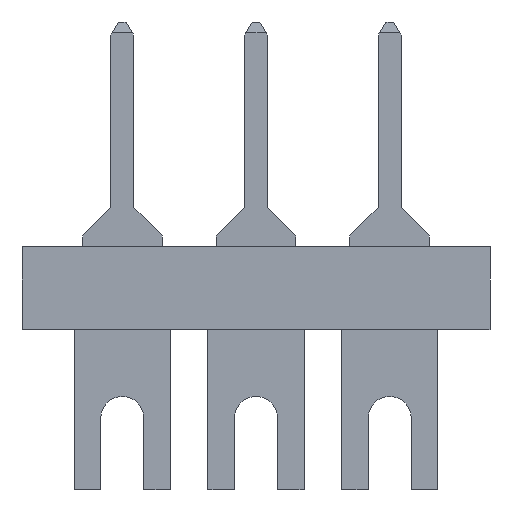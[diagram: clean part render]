
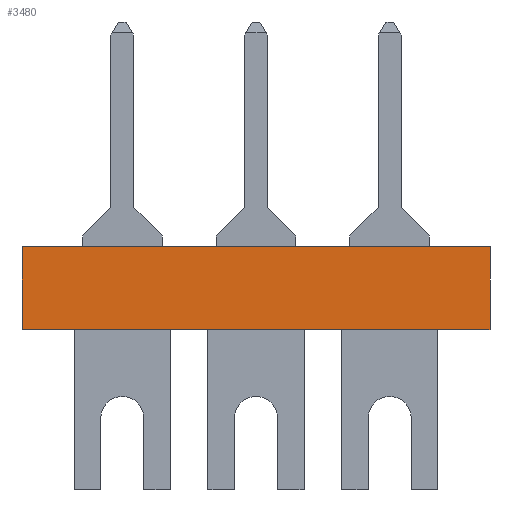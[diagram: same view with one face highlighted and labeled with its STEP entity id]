
A CAD part, front view. The second image highlights one B-rep face of the part: STEP entity #3480.
In plain terms, the highlighted planar face has unit normal (0, -1, 0).
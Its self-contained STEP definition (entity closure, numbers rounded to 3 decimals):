
#198=FACE_OUTER_BOUND($,#361,.T.);
#361=EDGE_LOOP($,(#3047,#3048,#3049,#3050));
#501=LINE($,#4726,#936);
#535=LINE($,#4815,#970);
#842=LINE($,#5469,#1277);
#844=LINE($,#5473,#1279);
#936=VECTOR($,#3846,8.89);
#970=VECTOR($,#3902,8.89);
#1277=VECTOR($,#4509,1.575);
#1279=VECTOR($,#4515,1.575);
#1359=VERTEX_POINT($,#4723);
#1360=VERTEX_POINT($,#4725);
#1403=VERTEX_POINT($,#4812);
#1404=VERTEX_POINT($,#4814);
#1705=EDGE_CURVE($,#1360,#1359,#501,.T.);
#1749=EDGE_CURVE($,#1403,#1404,#535,.T.);
#2082=EDGE_CURVE($,#1360,#1403,#842,.T.);
#2084=EDGE_CURVE($,#1359,#1404,#844,.T.);
#3047=ORIENTED_EDGE($,*,*,#1705,.T.);
#3048=ORIENTED_EDGE($,*,*,#2084,.T.);
#3049=ORIENTED_EDGE($,*,*,#1749,.F.);
#3050=ORIENTED_EDGE($,*,*,#2082,.F.);
#3177=PLANE($,#3682);
#3480=ADVANCED_FACE($,(#198),#3177,.T.);
#3682=AXIS2_PLACEMENT_3D($,#5474,#4516,#4517);
#3846=DIRECTION($,(1.,0.,0.));
#3902=DIRECTION($,(1.,0.,0.));
#4509=DIRECTION($,(0.,0.,1.));
#4515=DIRECTION($,(0.,0.,1.));
#4516=DIRECTION('center_axis',(0.,-1.,0.));
#4517=DIRECTION('ref_axis',(1.,0.,0.));
#4723=CARTESIAN_POINT('',(-28.16,-25.392,5.924));
#4725=CARTESIAN_POINT('',(-37.05,-25.392,5.924));
#4726=CARTESIAN_POINT($,(-37.05,-25.392,5.924));
#4812=CARTESIAN_POINT('',(-37.05,-25.392,7.499));
#4814=CARTESIAN_POINT('',(-28.16,-25.392,7.499));
#4815=CARTESIAN_POINT($,(-37.05,-25.392,7.499));
#5469=CARTESIAN_POINT($,(-37.05,-25.392,5.924));
#5473=CARTESIAN_POINT($,(-28.16,-25.392,5.924));
#5474=CARTESIAN_POINT('Origin',(-37.05,-25.392,5.924));
